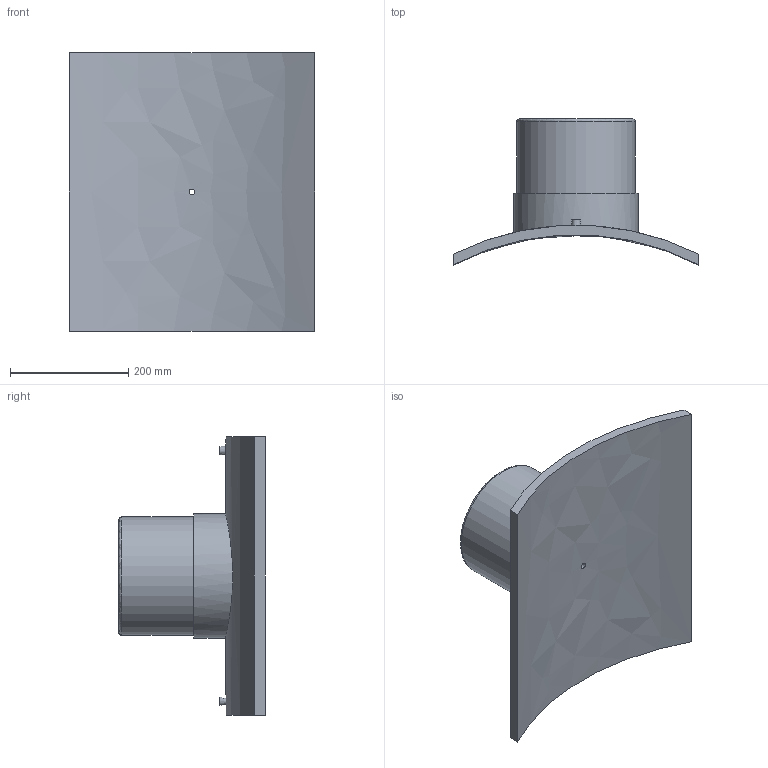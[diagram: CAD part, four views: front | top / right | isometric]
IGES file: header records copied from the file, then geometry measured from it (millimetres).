
Global section: file name: 495803900200T.ipt; native system: Autodesk Inventor 2019; preprocessor: unknown; author: KIM; date: 20210225.095238; units: millimetre
Bounding box: 415 x 246.7 x 470 mm (x, y, z)
Volume: 5522998.5 mm3; surface area: 653954.6 mm2
Topology: 2 solids, 2 shells, 29 faces, 54 edges, 38 vertices
Faces by surface type: plane 13, revolution 7, cylinder 7, cone 2
Full cylindrical faces by diameter (mm): 4 x2, 16 x1, 200 x1, 210 x1
